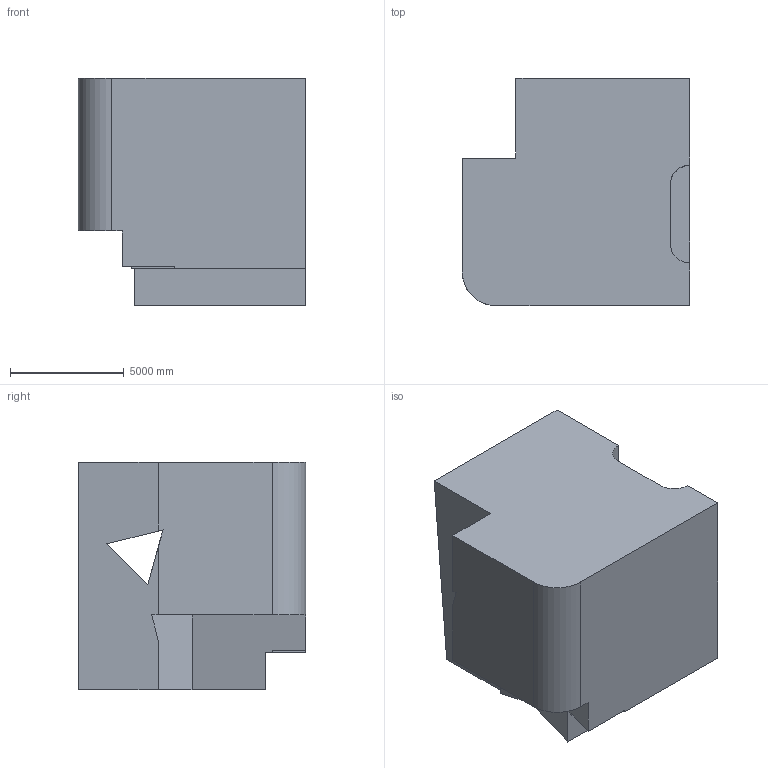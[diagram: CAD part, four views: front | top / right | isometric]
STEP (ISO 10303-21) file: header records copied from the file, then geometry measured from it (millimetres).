
FILE_DESCRIPTION (( 'STEP AP203' ), '1' );
FILE_NAME ('663.STEP', '2022-08-04T14:36:56', ( 'user' ), ( '' ), 'SwSTEP 2.0', 'SolidWorks 2021', '' );
FILE_SCHEMA (( 'CONFIG_CONTROL_DESIGN' ));
Length unit declared in the file: centimetre
Products named in the file (1): 663
Bounding box: 10000 x 10000 x 10000 mm (x, y, z)
Volume: 772546948027.8 mm3; surface area: 611723441.1 mm2
Topology: 1 solids, 1 shells, 26 faces, 75 edges, 50 vertices
Faces by surface type: plane 23, cylinder 3
Entity records: 926 total; most frequent: CARTESIAN_POINT 152, ORIENTED_EDGE 150, DIRECTION 135, EDGE_CURVE 75, LINE 69, VECTOR 69, VERTEX_POINT 50, AXIS2_PLACEMENT_3D 33
